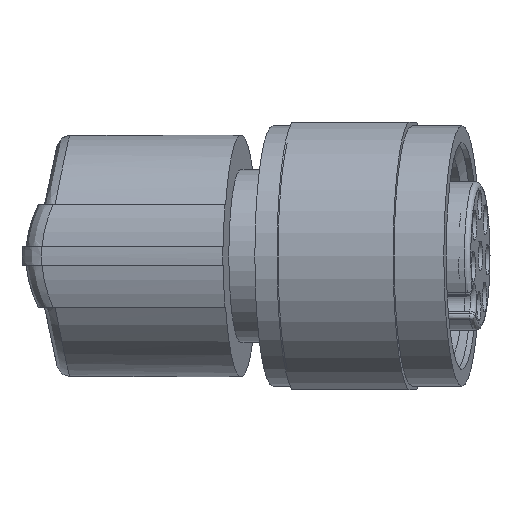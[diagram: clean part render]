
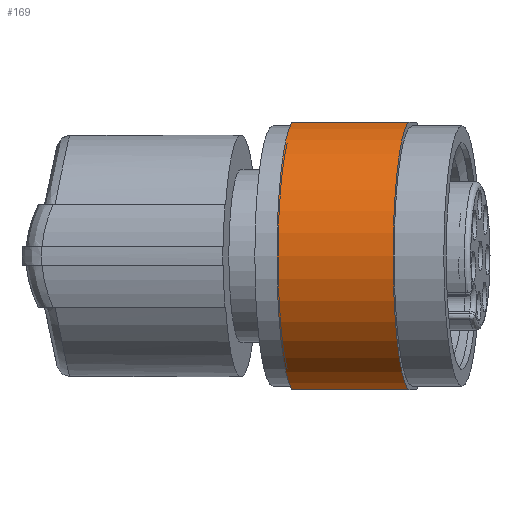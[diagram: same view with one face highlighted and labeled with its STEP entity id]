
A CAD part, left-side view. The second image highlights one B-rep face of the part: STEP entity #169.
In plain terms, the highlighted cylindrical face has radius 7.4 mm (diameter 14.8 mm), a partial arc.
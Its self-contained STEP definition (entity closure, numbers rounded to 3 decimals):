
#169 = ADVANCED_FACE( '', ( #476 ), #477, .T. );
#476 = FACE_OUTER_BOUND( '', #991, .T. );
#477 = CYLINDRICAL_SURFACE( '', #992, 7.4 );
#991 = EDGE_LOOP( '', ( #3087, #3088, #3089, #3090 ) );
#992 = AXIS2_PLACEMENT_3D( '', #3091, #3092, #3093 );
#3087 = ORIENTED_EDGE( '', *, *, #4206, .F. );
#3088 = ORIENTED_EDGE( '', *, *, #4207, .T. );
#3089 = ORIENTED_EDGE( '', *, *, #4208, .T. );
#3090 = ORIENTED_EDGE( '', *, *, #4209, .F. );
#3091 = CARTESIAN_POINT( '', ( 18.512, 2.804, 17.678 ) );
#3092 = DIRECTION( '', ( 0.139, 0.99, 0. ) );
#3093 = DIRECTION( '', ( 0.99, -0.139, 0. ) );
#4206 = EDGE_CURVE( '', #4629, #4630, #4631, .T. );
#4207 = EDGE_CURVE( '', #4629, #4632, #4633, .T. );
#4208 = EDGE_CURVE( '', #4632, #4634, #4635, .T. );
#4209 = EDGE_CURVE( '', #4630, #4634, #4636, .T. );
#4629 = VERTEX_POINT( '', #5260 );
#4630 = VERTEX_POINT( '', #5261 );
#4631 = CIRCLE( '', #5262, 7.4 );
#4632 = VERTEX_POINT( '', #5263 );
#4633 = LINE( '', #5264, #5265 );
#4634 = VERTEX_POINT( '', #5266 );
#4635 = CIRCLE( '', #5267, 7.4 );
#4636 = LINE( '', #5268, #5269 );
#5260 = CARTESIAN_POINT( '', ( 16.82, 3.042, 24.878 ) );
#5261 = CARTESIAN_POINT( '', ( 16.82, 3.042, 10.478 ) );
#5262 = AXIS2_PLACEMENT_3D( '', #8586, #8587, #8588 );
#5263 = CARTESIAN_POINT( '', ( 17.697, 9.28, 24.878 ) );
#5264 = CARTESIAN_POINT( '', ( 16.82, 3.042, 24.878 ) );
#5265 = VECTOR( '', #8589, 1000. );
#5266 = CARTESIAN_POINT( '', ( 17.697, 9.28, 10.478 ) );
#5267 = AXIS2_PLACEMENT_3D( '', #8590, #8591, #8592 );
#5268 = CARTESIAN_POINT( '', ( 16.82, 3.042, 10.478 ) );
#5269 = VECTOR( '', #8593, 1000. );
#8586 = CARTESIAN_POINT( '', ( 18.512, 2.804, 17.678 ) );
#8587 = DIRECTION( '', ( -0.139, -0.99, 0. ) );
#8588 = DIRECTION( '', ( 0.99, -0.139, 0. ) );
#8589 = DIRECTION( '', ( 0.139, 0.99, 0. ) );
#8590 = CARTESIAN_POINT( '', ( 19.389, 9.042, 17.678 ) );
#8591 = DIRECTION( '', ( -0.139, -0.99, 0. ) );
#8592 = DIRECTION( '', ( 0.99, -0.139, 0. ) );
#8593 = DIRECTION( '', ( 0.139, 0.99, 0. ) );
